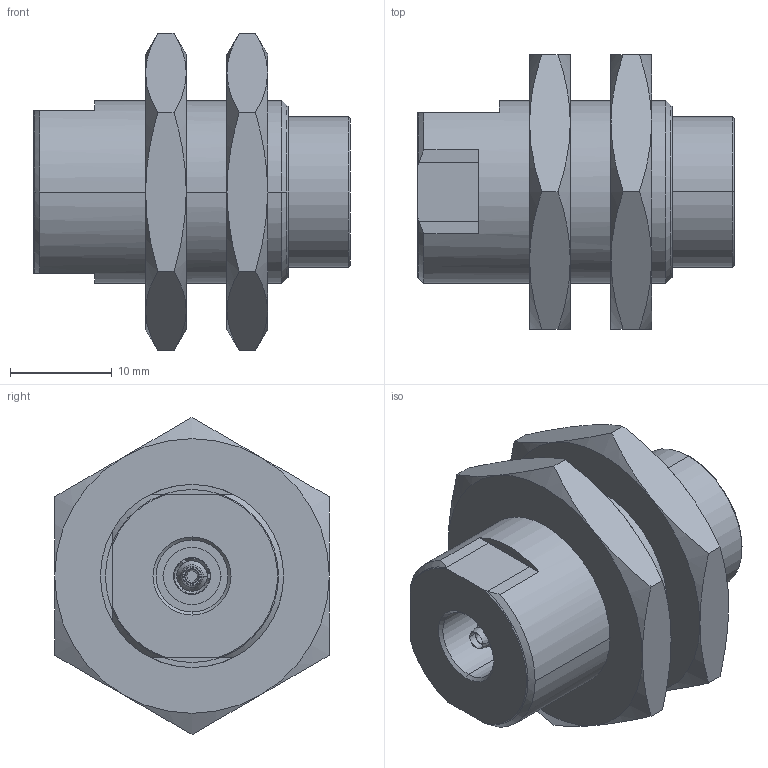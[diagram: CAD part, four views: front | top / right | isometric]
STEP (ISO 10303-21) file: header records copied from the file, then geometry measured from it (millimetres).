
FILE_DESCRIPTION((''),'2;1');
FILE_NAME('EU6_ASM','2008-09-19T',('11000205'),(''),'PRO/ENGINEER BY PARAMETRIC TECHNOLOGY CORPORATION, 2006460','PRO/ENGINEER BY PARAMETRIC TECHNOLOGY CORPORATION, 2006460','');
FILE_SCHEMA(('CONFIG_CONTROL_DESIGN'));
Length unit declared in the file: millimetre
Products named in the file (4): EU6; MUTTER-SW27; ZFG0_134; EU6_ASM
Assembly tree (4 placements, depth 2):
  EU6_ASM
    EU6
    MUTTER-SW27  x2
    ZFG0_134
Bounding box: 31.12 x 27 x 31.18 mm (x, y, z)
Volume: 10174.4 mm3; surface area: 7306.6 mm2
Topology: 4 solids, 7 shells, 830 faces, 2341 edges, 1537 vertices
Faces by surface type: plane 676, cylinder 77, cone 72, torus 5
Entity records: 26182 total; most frequent: CARTESIAN_POINT 5127, ORIENTED_EDGE 4538, DIRECTION 4055, EDGE_CURVE 2279, VECTOR 1927, LINE 1927, VERTEX_POINT 1501, AXIS2_PLACEMENT_3D 1064
